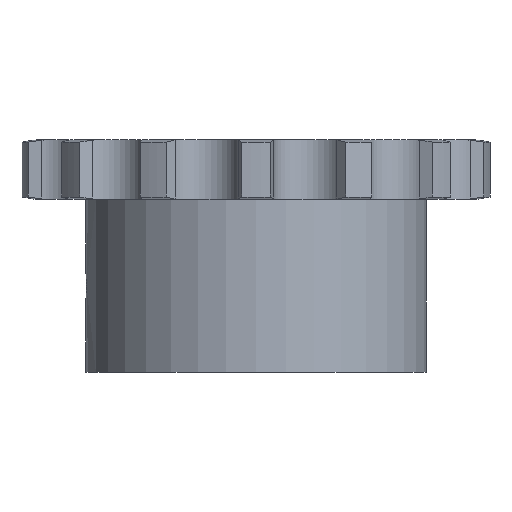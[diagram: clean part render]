
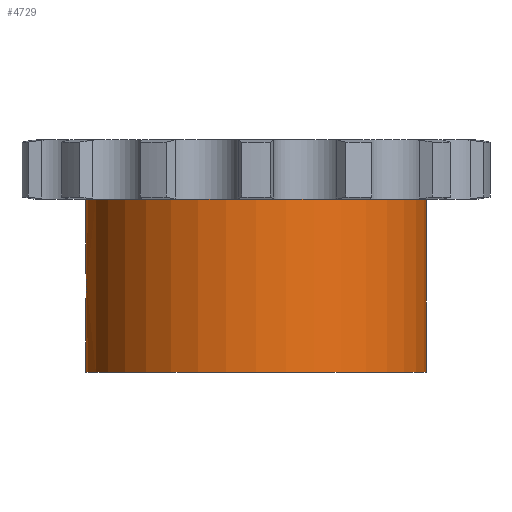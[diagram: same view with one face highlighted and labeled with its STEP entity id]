
A CAD part, front view. The second image highlights one B-rep face of the part: STEP entity #4729.
In plain terms, the highlighted cylindrical face has radius 20.5 mm (diameter 41 mm), a partial arc.
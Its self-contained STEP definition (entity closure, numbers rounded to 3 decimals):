
#943=CARTESIAN_POINT('',(0.,0.,-3.6));
#944=DIRECTION('',(0.,0.,1.));
#945=DIRECTION('',(-1.,0.,0.));
#946=AXIS2_PLACEMENT_3D('',#943,#944,#945);
#2256=CARTESIAN_POINT('',(-20.5,0.,
-12.));
#2277=DIRECTION('',(0.,0.,1.));
#2278=VECTOR('',#2277,20.8);
#2279=CARTESIAN_POINT('',(20.5,0.,-24.4));
#2280=LINE('',#2279,#2278);
#2389=CARTESIAN_POINT('',(0.,0.,-24.4));
#2390=DIRECTION('',(0.,0.,-1.));
#2391=DIRECTION('',(1.,0.,0.));
#2392=AXIS2_PLACEMENT_3D('',#2389,#2390,#2391);
#2418=CARTESIAN_POINT('',(-20.5,0.,
-12.));
#2419=CARTESIAN_POINT('',(-20.5,-0.12,
-12.));
#2420=CARTESIAN_POINT('',(-20.498,-0.356,
-12.02));
#2421=CARTESIAN_POINT('',(-20.489,-0.706,
-12.113));
#2422=CARTESIAN_POINT('',(-20.475,-1.031,
-12.264));
#2423=CARTESIAN_POINT('',(-20.458,-1.323,
-12.467));
#2424=CARTESIAN_POINT('',(-20.44,-1.575,
-12.717));
#2425=CARTESIAN_POINT('',(-20.423,-1.78,
-13.01));
#2426=CARTESIAN_POINT('',(-20.409,-1.929,
-13.331));
#2427=CARTESIAN_POINT('',(-20.401,-2.016,
-13.668));
#2428=CARTESIAN_POINT('',(-20.399,-2.035,
-13.889));
#2429=CARTESIAN_POINT('',(-20.399,-2.035,
-14.));
#2434=DIRECTION('',(0.,0.,1.));
#2435=VECTOR('',#2434,8.4);
#2436=CARTESIAN_POINT('',(-20.5,0.,
-12.));
#2437=LINE('',#2436,#2435);
#2441=DIRECTION('',(0.,0.,1.));
#2442=VECTOR('',#2441,8.4);
#2443=CARTESIAN_POINT('',(-20.5,0.,-24.4));
#2444=LINE('',#2443,#2442);
#2448=CARTESIAN_POINT('',(-20.399,-2.035,
-14.));
#2449=CARTESIAN_POINT('',(-20.399,-2.035,
-14.11));
#2450=CARTESIAN_POINT('',(-20.401,-2.016,
-14.331));
#2451=CARTESIAN_POINT('',(-20.409,-1.929,-14.668));
#2452=CARTESIAN_POINT('',(-20.423,-1.781,
-14.989));
#2453=CARTESIAN_POINT('',(-20.44,-1.576,
-15.282));
#2454=CARTESIAN_POINT('',(-20.458,-1.323,
-15.533));
#2455=CARTESIAN_POINT('',(-20.475,-1.031,
-15.736));
#2456=CARTESIAN_POINT('',(-20.489,-0.707,
-15.887));
#2457=CARTESIAN_POINT('',(-20.498,-0.356,
-15.98));
#2458=CARTESIAN_POINT('',(-20.5,-0.12,
-16.));
#2459=CARTESIAN_POINT('',(-20.5,0.,
-16.));
#2805=CARTESIAN_POINT('',(-20.5,0.,-24.4));
#2806=CARTESIAN_POINT('',(20.5,0.,-24.4));
#2807=VERTEX_POINT('',#2805);
#2808=VERTEX_POINT('',#2806);
#2809=CARTESIAN_POINT('',(20.5,0.,-3.6));
#2810=VERTEX_POINT('',#2809);
#2811=CARTESIAN_POINT('',(-20.5,0.,-3.6));
#2812=VERTEX_POINT('',#2811);
#2962=VERTEX_POINT('',#2256);
#2965=VERTEX_POINT('',#2429);
#2967=VERTEX_POINT('',#2459);
#4713=CARTESIAN_POINT('',(0.,0.,3.6));
#4714=DIRECTION('',(0.,0.,1.));
#4715=DIRECTION('',(1.,0.,0.));
#4716=AXIS2_PLACEMENT_3D('',#4713,#4714,#4715);
#4717=CYLINDRICAL_SURFACE('',#4716,20.5);
#4719=ORIENTED_EDGE('',*,*,#4718,.F.);
#4720=ORIENTED_EDGE('',*,*,#4463,.T.);
#4721=ORIENTED_EDGE('',*,*,#3841,.T.);
#4722=ORIENTED_EDGE('',*,*,#4460,.F.);
#4723=ORIENTED_EDGE('',*,*,#4699,.T.);
#4724=ORIENTED_EDGE('',*,*,#4456,.T.);
#4726=ORIENTED_EDGE('',*,*,#4725,.F.);
#4727=EDGE_LOOP('',(#4719,#4720,#4721,#4722,#4723,#4724,#4726));
#4728=FACE_OUTER_BOUND('',#4727,.F.);
#4729=ADVANCED_FACE('',(#4728),#4717,.T.);
#947=CIRCLE('',#946,20.5);
#2393=CIRCLE('',#2392,20.5);
#2430=B_SPLINE_CURVE_WITH_KNOTS('',3,(#2418,#2419,#2420,#2421,#2422,#2423,#2424,
#2425,#2426,#2427,#2428,#2429),.UNSPECIFIED.,.F.,.F.,(4,1,1,1,1,1,1,1,1,4),
(0.,0.111,0.222,0.333,0.444,
0.556,0.667,0.778,0.889,1.),
.UNSPECIFIED.);
#2460=B_SPLINE_CURVE_WITH_KNOTS('',3,(#2448,#2449,#2450,#2451,#2452,#2453,#2454,
#2455,#2456,#2457,#2458,#2459),.UNSPECIFIED.,.F.,.F.,(4,1,1,1,1,1,1,1,1,4),
(0.,0.111,0.222,0.333,0.444,
0.556,0.667,0.778,0.889,1.),
.UNSPECIFIED.);
#3841=EDGE_CURVE('',#2812,#2810,#947,.T.);
#4456=EDGE_CURVE('',#2807,#2967,#2444,.T.);
#4460=EDGE_CURVE('',#2808,#2810,#2280,.T.);
#4463=EDGE_CURVE('',#2962,#2812,#2437,.T.);
#4699=EDGE_CURVE('',#2808,#2807,#2393,.T.);
#4718=EDGE_CURVE('',#2962,#2965,#2430,.T.);
#4725=EDGE_CURVE('',#2965,#2967,#2460,.T.);
